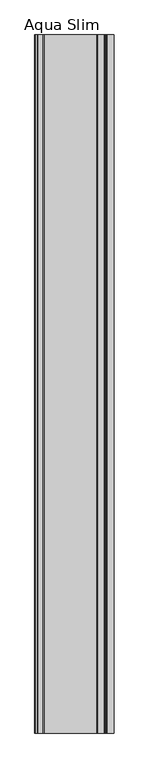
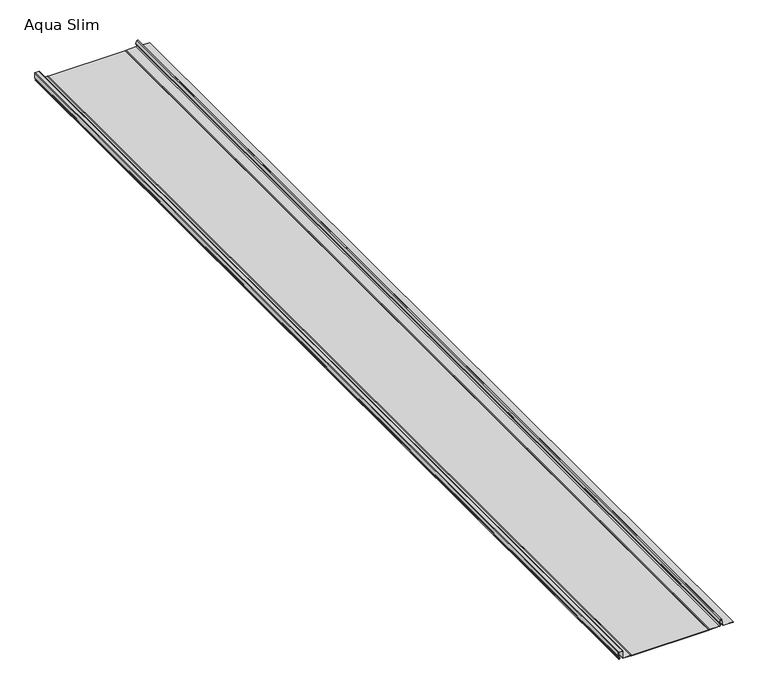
"""IFC4 building model written with IfcOpenShell, lengths in millimetres: proxy geometry, AQUAPLAST - Panel Dachowy i Elewacyjny Aqua Slim : Aqua Slim."""

from ifc_helpers import new_model, si_unit, point, frame, frame_2d, origin, origin_with_axes, place, context, project, spatial, polyline, circle_curve, trimmed, segment, composite_curve, outline, extrude, source, transform, mapped, element, save


def aqua_slim_1cb284e8(model_context):
    return source(origin(), model_context, "Body", "SweptSolid", [
        extrude(outline(composite_curve([segment(polyline([(0.8, 168.4), (0.8, 138.958412)]), True, "CONTINUOUS"), segment(trimmed(circle_curve(frame_2d((1.4640676, 138.958412)), 0.6640676), [point((0.8, 138.958412))], [point((1.3501315, 138.3041916))], True, "CARTESIAN"), True, "CONTINUOUS"), segment(polyline([(1.3501315, 138.3041916), (18.7653554, 135.2712349)]), True, "CONTINUOUS"), segment(trimmed(circle_curve(frame_2d((18.1818617, 132.6281389)), 2.7067363), [point((18.7653554, 135.2712349))], [point((19.5352298, 130.2840366))], False, "CARTESIAN"), True, "CONTINUOUS"), segment(polyline([(19.5352298, 130.2840366), (12.1941629, 127.3237764)]), True, "CONTINUOUS"), segment(trimmed(circle_curve(frame_2d((11.2676679, 129.6213657)), 2.4773594), [point((12.1941629, 127.3237764))], [point((9.0024093, 128.6184133))], False, "CARTESIAN"), True, "CONTINUOUS"), segment(trimmed(circle_curve(frame_2d((5.4667311, 127.0529775)), 3.8667311), [point((9.0024093, 128.6184133))], [point((1.6, 127.0529775))], True, "CARTESIAN"), True, "CONTINUOUS"), segment(polyline([(1.6, 127.0529775), (1.6, 99.2000503), (0.8, 95.7000503), (0.0, 95.7000503), (0.8, 99.2000503), (0.8, 126.8938021)]), True, "CONTINUOUS"), segment(trimmed(circle_curve(frame_2d((5.5014361, 126.8938021)), 4.7014361), [point((0.8, 126.8938021))], [point((9.7513874, 128.9041293))], False, "CARTESIAN"), True, "CONTINUOUS"), segment(trimmed(circle_curve(frame_2d((11.2676679, 129.6213657)), 1.6773594), [point((9.7513874, 128.9041293))], [point((11.8934079, 128.0650932))], True, "CARTESIAN"), True, "CONTINUOUS"), segment(polyline([(11.8934079, 128.0650932), (19.1352298, 130.9768569)]), True, "CONTINUOUS"), segment(trimmed(circle_curve(frame_2d((18.1818617, 132.6281389)), 1.9067363), [point((19.1352298, 130.9768569))], [point((18.4803326, 134.5113697))], True, "CARTESIAN"), True, "CONTINUOUS"), segment(polyline([(18.4803326, 134.5113697), (0.6241817, 137.3413691)]), True, "CONTINUOUS"), segment(trimmed(circle_curve(frame_2d((0.7400208, 138.0722673)), 0.7400208), [point((0.6241817, 137.3413691))], [point((0.0, 138.0722673))], False, "CARTESIAN"), True, "CONTINUOUS"), segment(polyline([(0.0, 138.0722673), (0.0, 168.4), (0.8, 168.4)]), True, "CONTINUOUS")], self_intersect=False)), frame((0.0, 0.0, 0.0), z_axis=(0.0, 1.0, 0.0), x_axis=(0.0, 0.0, 1.0)), (0.0, 0.0, 1.0), 2997.0),
        extrude(outline(composite_curve([segment(polyline([(1.6, -135.0), (1.6, -158.1)]), True, "CONTINUOUS"), segment(trimmed(circle_curve(frame_2d((2.1, -158.1)), 0.5), [point((1.6, -158.1))], [point((2.1, -158.6))], True, "CARTESIAN"), True, "CONTINUOUS"), segment(polyline([(2.1, -158.6), (24.5, -158.6)]), True, "CONTINUOUS"), segment(trimmed(circle_curve(frame_2d((24.5, -159.1)), 0.5), [point((24.5, -158.6))], [point((25.0, -159.1))], False, "CARTESIAN"), True, "CONTINUOUS"), segment(polyline([(25.0, -159.1), (25.0, -171.1)]), True, "CONTINUOUS"), segment(trimmed(circle_curve(frame_2d((24.5, -171.1)), 0.5), [point((25.0, -171.1))], [point((24.5, -171.6))], False, "CARTESIAN"), True, "CONTINUOUS"), segment(polyline([(24.5, -171.6), (8.8039223, -171.6)]), True, "CONTINUOUS"), segment(trimmed(circle_curve(frame_2d((8.8039223, -170.9250457)), 0.6749543), [point((8.8039223, -171.6))], [point((8.1289934, -170.9191923))], False, "CARTESIAN"), True, "CONTINUOUS"), segment(trimmed(circle_curve(frame_2d((5.3847863, -170.9191923)), 2.7442071), [point((8.1289934, -170.9191923))], [point((2.6405793, -170.9191923))], True, "CARTESIAN"), True, "CONTINUOUS"), segment(polyline([(2.6405793, -170.9191923), (1.8403383, -170.9191923)]), True, "CONTINUOUS"), segment(trimmed(circle_curve(frame_2d((5.4137846, -170.9191923)), 3.5734462), [point((1.8403383, -170.9191923))], [point((8.9478642, -170.3902321))], False, "CARTESIAN"), True, "CONTINUOUS"), segment(trimmed(circle_curve(frame_2d((9.7850119, -169.9539484)), 0.9440125), [point((8.9478642, -170.3902321))], [point((9.7850119, -170.897961))], True, "CARTESIAN"), True, "CONTINUOUS"), segment(polyline([(9.7850119, -170.897961), (23.6993591, -170.897961)]), True, "CONTINUOUS"), segment(trimmed(circle_curve(frame_2d((23.6993591, -170.3966773)), 0.5012837), [point((23.6993591, -170.897961))], [point((24.2006428, -170.3966773))], True, "CARTESIAN"), True, "CONTINUOUS"), segment(polyline([(24.2006428, -170.3966773), (24.2006428, -159.9001579)]), True, "CONTINUOUS"), segment(trimmed(circle_curve(frame_2d((23.7003195, -159.9001579)), 0.5003233), [point((24.2006428, -159.9001579))], [point((23.7003195, -159.3998346))], True, "CARTESIAN"), True, "CONTINUOUS"), segment(polyline([(23.7003195, -159.3998346), (1.2999699, -159.3998346)]), True, "CONTINUOUS"), segment(trimmed(circle_curve(frame_2d((1.2999699, -158.8999248)), 0.4999098), [point((1.2999699, -159.3998346))], [point((0.8000601, -158.8999248))], False, "CARTESIAN"), True, "CONTINUOUS"), segment(polyline([(0.8000601, -158.8999248), (0.8000601, -135.0), (0.0, -131.5), (0.8, -131.5), (1.6, -135.0)]), True, "CONTINUOUS")], self_intersect=False)), frame((0.0, 0.0, 0.0), z_axis=(0.0, 1.0, 0.0), x_axis=(0.0, 0.0, 1.0)), (0.0, 0.0, 1.0), 2997.0),
        extrude(outline(polyline([(-131.5, 2997.0), (95.7000503, 2997.0), (95.7000503, 0.0), (-131.5, 0.0), (-131.5, 2997.0)])), origin_with_axes(), (0.0, 0.0, 1.0), 0.8),
    ])


if __name__ == "__main__":
    model = new_model("IFC4")
    model_context = context("Model", 3, world=origin())
    ifc_project = project(units=[si_unit("LENGTHUNIT", "METRE", prefix="MILLI")], contexts=[model_context])
    site = spatial("IfcSite", under=ifc_project)
    building = spatial("IfcBuilding", under=site)
    placement = place(None, origin())
    aqua_slim_shape = aqua_slim_1cb284e8(model_context)
    element("IfcBuildingElementProxy", 1, Name="AQUAPLAST - Panel Dachowy i Elewacyjny Aqua Slim : Aqua Slim", ObjectType="AQUAPLAST - Panel Dachowy i Elewacyjny Aqua Slim : Aqua Slim", at=placement, inside=building, context=model_context, shape_type="MappedRepresentation", body=[
        mapped(aqua_slim_shape, transform((0.0, 0.0, 0.0), x_axis=(1.0, 0.0, 0.0), y_axis=(0.0, 1.0, 0.0), z_axis=(0.0, 0.0, 1.0))),
    ])
    save(model, "model.ifc")
